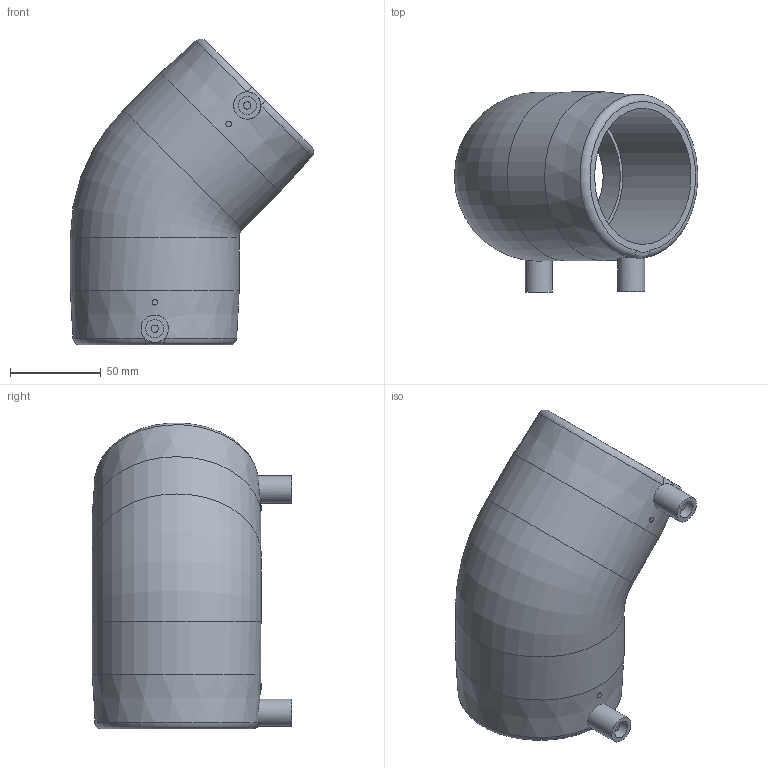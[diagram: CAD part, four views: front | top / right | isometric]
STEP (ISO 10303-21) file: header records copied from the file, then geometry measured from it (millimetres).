
FILE_DESCRIPTION(/* description */ ('Unknown'),/* implementation_level */ '2;1');
FILE_NAME(/* name */ 'GE4P075C',/* time_stamp */ '2024-01-09T16:15:54+01:00',/* author */ ('Unknown'),/* organization */ ('Unknown'),/* preprocessor_version */ 'ST-DEVELOPER v18.102',/* originating_system */ 'Solid Edge',/* authorisation */ 'Unknown');
FILE_SCHEMA (('AUTOMOTIVE_DESIGN {1 0 10303 214 3 1 1}'));
Length unit declared in the file: millimetre
Products named in the file (1): GE4P075C
Bounding box: 133.99 x 110 x 168.49 mm (x, y, z)
Volume: 391104.1 mm3; surface area: 90345.1 mm2
Topology: 1 solids, 1 shells, 40 faces, 86 edges, 56 vertices
Faces by surface type: cylinder 20, plane 12, torus 4, cone 2, bspline 2
Full cylindrical faces by diameter (mm): 3 x2, 4 x2, 10 x2, 15 x2, 75 x2, 93 x2
Entity records: 1094 total; most frequent: CARTESIAN_POINT 310, DIRECTION 168, ORIENTED_EDGE 122, AXIS2_PLACEMENT_3D 84, EDGE_LOOP 65, FACE_BOUND 65, EDGE_CURVE 61, VERTEX_POINT 46
